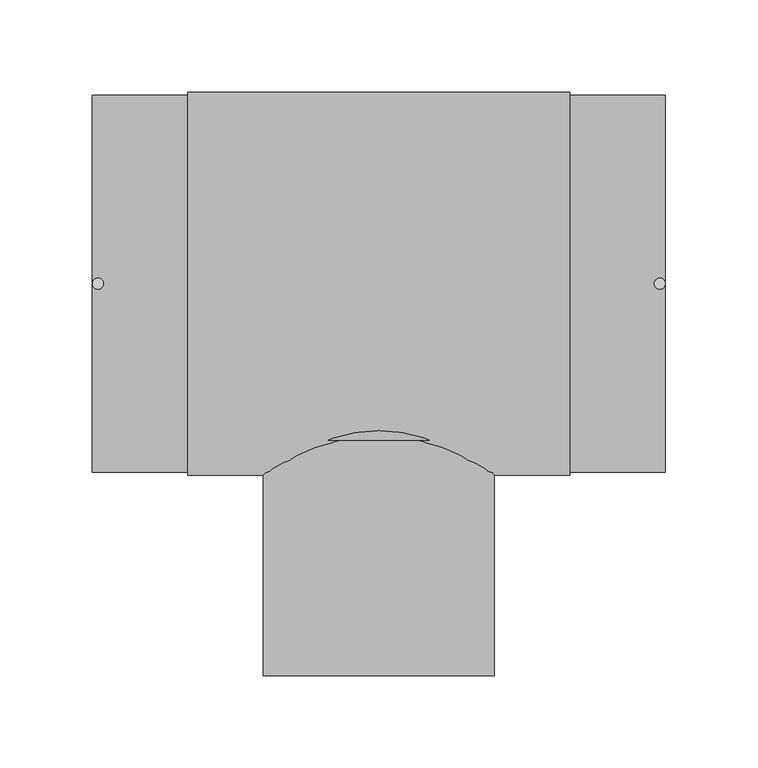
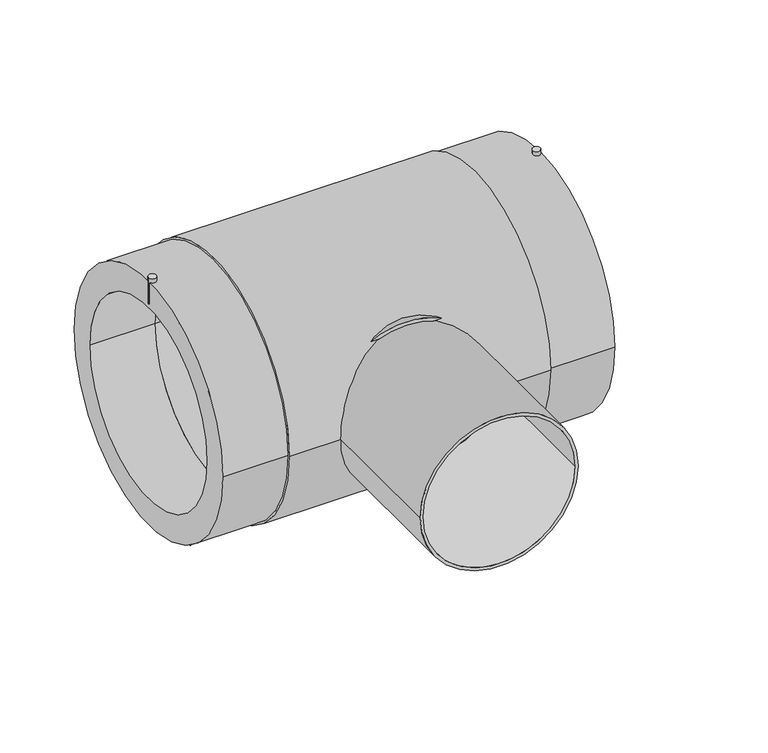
"""IFC4 building model written with IfcOpenShell, lengths in millimetres: pipe fitting geometry, EGB_VASEN_ PPR_Te electrosoldable WXRD300_Te reducida electrosoldable WXRD310 : Te electrosoldable."""

from ifc_helpers import new_model, si_unit, point, frame, frame_2d, origin, origin_2d, place, context, project, spatial, circle_curve, trimmed, segment, composite_curve, outline, extrude, source, transform, mapped, element, save


def pipe_fitting_09da9a0f(model_context):
    return source(origin(), model_context, "Body", "SweptSolid", [
        extrude(outline(composite_curve([segment(trimmed(circle_curve(frame_2d((-152.0, 0.0)), 3.0), [point((-155.0, 0.0))], [point((-149.0, 0.0))], False, "CARTESIAN"), True, "CONTINUOUS"), segment(trimmed(circle_curve(frame_2d((-152.0, 0.0)), 3.0), [point((-149.0, 0.0))], [point((-155.0, 0.0))], False, "CARTESIAN"), True, "CONTINUOUS")], self_intersect=False)), frame((0.0, 0.0, 83.0), z_axis=(0.0, 0.0, 1.0), x_axis=(1.0, 0.0, 0.0)), (0.0, 0.0, 1.0), 22.0),
        extrude(outline(composite_curve([segment(trimmed(circle_curve(frame_2d((152.0, 0.0)), 3.0), [point((149.0, 0.0))], [point((155.0, 0.0))], False, "CARTESIAN"), True, "CONTINUOUS"), segment(trimmed(circle_curve(frame_2d((152.0, 0.0)), 3.0), [point((155.0, 0.0))], [point((149.0, 0.0))], False, "CARTESIAN"), True, "CONTINUOUS")], self_intersect=False)), frame((0.0, 0.0, 83.0), z_axis=(0.0, 0.0, 1.0), x_axis=(1.0, 0.0, 0.0)), (0.0, 0.0, 1.0), 22.0),
        extrude(outline(composite_curve([segment(trimmed(circle_curve(origin_2d(), 65.0), [point((0.0, 65.0))], [point((0.0, -65.0))], False, "CARTESIAN"), True, "CONTINUOUS"), segment(trimmed(circle_curve(origin_2d(), 65.0), [point((0.0, -65.0))], [point((0.0, 65.0))], False, "CARTESIAN"), True, "CONTINUOUS")], self_intersect=False)), frame((0.0, -84.8, 0.0), z_axis=(0.0, 1.0, 0.0), x_axis=(0.0, 0.0, 1.0)), (0.0, 0.0, 1.0), 84.8),
        extrude(outline(composite_curve([segment(trimmed(circle_curve(origin_2d(), 62.5), [point((0.0, -62.5))], [point((0.0, 62.5))], False, "CARTESIAN"), True, "CONTINUOUS"), segment(trimmed(circle_curve(origin_2d(), 62.5), [point((0.0, 62.5))], [point((0.0, -62.5))], False, "CARTESIAN"), True, "CONTINUOUS")], self_intersect=False), holes=[composite_curve([segment(trimmed(circle_curve(origin_2d(), 60.0), [point((0.0, -60.0))], [point((0.0, 60.0))], True, "CARTESIAN"), True, "CONTINUOUS"), segment(trimmed(circle_curve(origin_2d(), 60.0), [point((0.0, 60.0))], [point((0.0, -60.0))], True, "CARTESIAN"), True, "CONTINUOUS")], self_intersect=False)]), frame((0.0, -212.0, 0.0), z_axis=(0.0, 1.0, 0.0), x_axis=(0.0, 0.0, 1.0)), (0.0, 0.0, 1.0), 127.2),
        extrude(outline(composite_curve([segment(trimmed(circle_curve(origin_2d(), 103.5), [point((-103.5, 0.0))], [point((103.5, 0.0))], False, "CARTESIAN"), True, "CONTINUOUS"), segment(trimmed(circle_curve(origin_2d(), 103.5), [point((103.5, 0.0))], [point((-103.5, 0.0))], False, "CARTESIAN"), True, "CONTINUOUS")], self_intersect=False), holes=[composite_curve([segment(trimmed(circle_curve(origin_2d(), 80.0), [point((-80.0, 0.0))], [point((80.0, 0.0))], True, "CARTESIAN"), True, "CONTINUOUS"), segment(trimmed(circle_curve(origin_2d(), 80.0), [point((80.0, 0.0))], [point((-80.0, 0.0))], True, "CARTESIAN"), True, "CONTINUOUS")], self_intersect=False)]), frame((-103.3333333, 0.0, 0.0), z_axis=(1.0, 0.0, 0.0), x_axis=(0.0, 1.0, 0.0)), (0.0, 0.0, 1.0), 206.6666667),
        extrude(outline(composite_curve([segment(trimmed(circle_curve(origin_2d(), 102.0), [point((-102.0, 0.0))], [point((102.0, 0.0))], False, "CARTESIAN"), True, "CONTINUOUS"), segment(trimmed(circle_curve(origin_2d(), 102.0), [point((102.0, 0.0))], [point((-102.0, 0.0))], False, "CARTESIAN"), True, "CONTINUOUS")], self_intersect=False), holes=[composite_curve([segment(trimmed(circle_curve(origin_2d(), 80.0), [point((-80.0, 0.0))], [point((80.0, 0.0))], True, "CARTESIAN"), True, "CONTINUOUS"), segment(trimmed(circle_curve(origin_2d(), 80.0), [point((80.0, 0.0))], [point((-80.0, 0.0))], True, "CARTESIAN"), True, "CONTINUOUS")], self_intersect=False)]), frame((-155.0, 0.0, 0.0), z_axis=(1.0, 0.0, 0.0), x_axis=(0.0, 1.0, 0.0)), (0.0, 0.0, 1.0), 310.0),
    ])


if __name__ == "__main__":
    model = new_model("IFC4")
    model_context = context("Model", 3, world=origin())
    ifc_project = project(units=[si_unit("LENGTHUNIT", "METRE", prefix="MILLI")], contexts=[model_context])
    site = spatial("IfcSite", under=ifc_project)
    building = spatial("IfcBuilding", under=site)
    placement = place(None, origin())
    pipe_fitting_shape = pipe_fitting_09da9a0f(model_context)
    element("IfcPipeFitting", 1, ObjectType="EGB_VASEN_ PPR_Te electrosoldable WXRD300_Te reducida electrosoldable WXRD310 : Te electrosoldable", at=placement, inside=building, context=model_context, shape_type="MappedRepresentation", body=[
        mapped(pipe_fitting_shape, transform((0.0, 0.0, 0.0), x_axis=(1.0, 0.0, 0.0), y_axis=(0.0, 1.0, 0.0), z_axis=(0.0, 0.0, 1.0))),
    ])
    save(model, "model.ifc")
